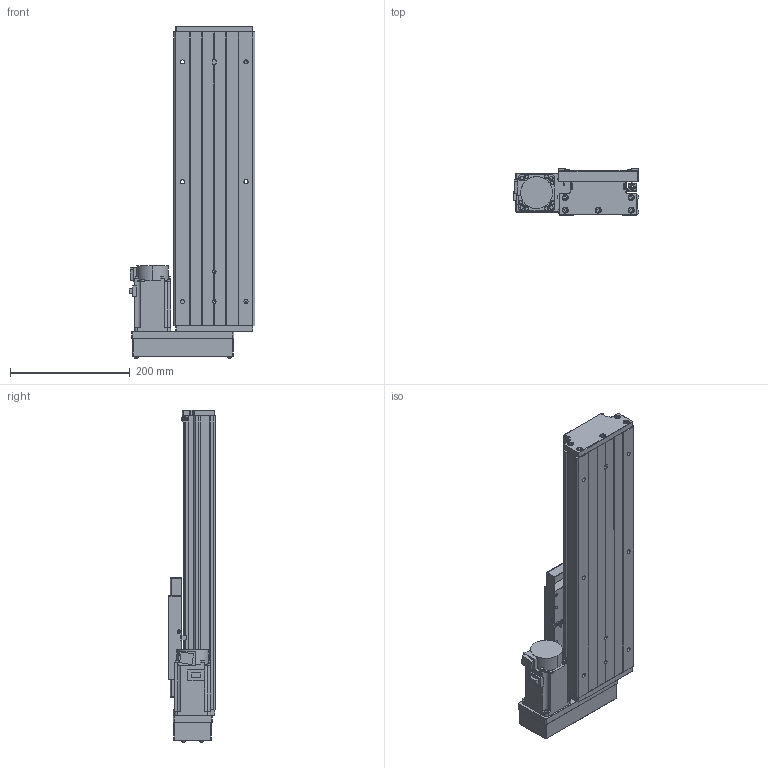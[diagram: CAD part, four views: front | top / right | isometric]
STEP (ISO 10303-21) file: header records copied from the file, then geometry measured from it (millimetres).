
FILE_DESCRIPTION (( 'STEP AP203' ), '1' );
FILE_NAME ('GTH14-250-BL-M40-C4.step', '2023-06-30T08:39:12', ( '微软用户' ), ( '微软中国' ), 'SwSTEP 2.0', 'SolidWorks 2020', '' );
FILE_SCHEMA (( 'CONFIG_CONTROL_DESIGN' ));
Length unit declared in the file: millimetre
Products named in the file (19): GBT 70.1-M3℅5; GTH14-015-2_CTHA86-015-2; GTH14-005; GBT77-2000 M3×3; GTH14-033; GB1155-6X6; GTH14-031; GTH14-250-BL-M40-C4; GBT70.1 M5℅16; GBT 70.2-M3¡Á5_M3¡Á6; CTHA60-017; す晦芛蹟隊 M3℅5; GTH14-001_250; EE_SX911P_R; HG-KN43J-S100; GTH14-002_GTH14-002; CTHA60-016; GBT 70.2-M4¡Á35_M4¡Á35; GTH14-004
Assembly tree (58 placements, depth 2):
  GTH14-250-BL-M40-C4
    GTH14-001_250
    GTH14-002_GTH14-002
    GTH14-004
    GTH14-005
    GB1155-6X6  x2
    GBT70.1 M5℅16  x10
    CTHA60-017  x3
    EE_SX911P_R  x3
    CTHA60-016  x2
    GBT 70.1-M3℅5  x6
    GBT77-2000 M3×3  x6
    GTH14-031
    GBT 70.2-M3¡Á5_M3¡Á6  x8
    す晦芛蹟隊 M3℅5  x6
    HG-KN43J-S100
    GBT 70.2-M4¡Á35_M4¡Á35  x4
    GTH14-015-2_CTHA86-015-2
    GTH14-033
Bounding box: 209.3 x 78 x 554.2 mm (x, y, z)
Volume: 3366723.3 mm3; surface area: 626003.4 mm2
Topology: 61 solids, 61 shells, 2433 faces, 5785 edges, 3562 vertices
Faces by surface type: plane 1303, cylinder 640, cone 314, torus 124, sphere 32, bspline 20
Entity records: 43542 total; most frequent: CARTESIAN_POINT 9757, DIRECTION 6369, ORIENTED_EDGE 6260, EDGE_CURVE 3130, AXIS2_PLACEMENT_3D 2166, VECTOR 2037, LINE 2037, VERTEX_POINT 1980
